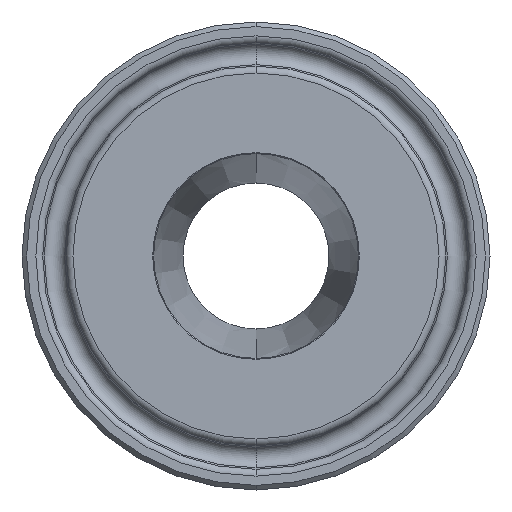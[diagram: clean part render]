
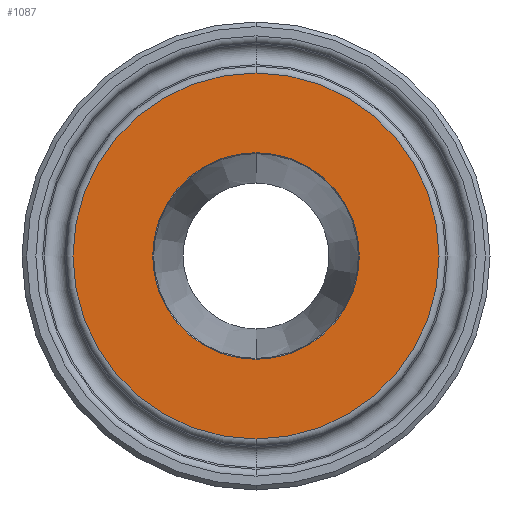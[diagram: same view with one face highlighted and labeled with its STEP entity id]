
A CAD part, left-side view. The second image highlights one B-rep face of the part: STEP entity #1087.
In plain terms, the highlighted planar face has unit normal (-1, 0, 0).
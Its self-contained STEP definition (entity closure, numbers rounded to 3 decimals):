
#21 = CARTESIAN_POINT ( 'NONE',  ( -39.688, 0., 11.15 ) ) ;
#56 = EDGE_CURVE ( 'NONE', #996, #718, #637, .T. ) ;
#112 = ORIENTED_EDGE ( 'NONE', *, *, #1278, .F. ) ;
#125 = CARTESIAN_POINT ( 'NONE',  ( -39.688, 0., -19.747 ) ) ;
#155 = EDGE_LOOP ( 'NONE', ( #382, #1337 ) ) ;
#294 = AXIS2_PLACEMENT_3D ( 'NONE', #606, #954, #1044 ) ;
#305 = CARTESIAN_POINT ( 'NONE',  ( -39.688, 0., 0. ) ) ;
#309 = DIRECTION ( 'NONE',  ( -1., 0., 0. ) ) ;
#314 = DIRECTION ( 'NONE',  ( 0., 0., 1. ) ) ;
#327 = CARTESIAN_POINT ( 'NONE',  ( -39.688, 0., 0. ) ) ;
#340 = DIRECTION ( 'NONE',  ( -1., 0., 0. ) ) ;
#345 = CARTESIAN_POINT ( 'NONE',  ( -39.688, 0., 0. ) ) ;
#348 = DIRECTION ( 'NONE',  ( 0., 0., 1. ) ) ;
#349 = CARTESIAN_POINT ( 'NONE',  ( -39.688, 0., -11.15 ) ) ;
#382 = ORIENTED_EDGE ( 'NONE', *, *, #565, .T. ) ;
#391 = DIRECTION ( 'NONE',  ( 0., 0., 1. ) ) ;
#394 = DIRECTION ( 'NONE',  ( -1., 0., 0. ) ) ;
#400 = CARTESIAN_POINT ( 'NONE',  ( -39.688, 0., 0. ) ) ;
#428 = FACE_BOUND ( 'NONE', #938, .T. ) ;
#511 = VERTEX_POINT ( 'NONE', #349 ) ;
#514 = AXIS2_PLACEMENT_3D ( 'NONE', #345, #783, #806 ) ;
#565 = EDGE_CURVE ( 'NONE', #718, #996, #886, .T. ) ;
#606 = CARTESIAN_POINT ( 'NONE',  ( -39.688, 0., 0. ) ) ;
#637 = CIRCLE ( 'NONE', #1431, 19.747 ) ;
#718 = VERTEX_POINT ( 'NONE', #980 ) ;
#725 = PLANE ( 'NONE',  #294 ) ;
#783 = DIRECTION ( 'NONE',  ( -1., 0., 0. ) ) ;
#785 = VERTEX_POINT ( 'NONE', #21 ) ;
#806 = DIRECTION ( 'NONE',  ( 0., 0., 1. ) ) ;
#876 = ORIENTED_EDGE ( 'NONE', *, *, #1213, .F. ) ;
#886 = CIRCLE ( 'NONE', #1135, 19.747 ) ;
#898 = CIRCLE ( 'NONE', #514, 11.15 ) ;
#938 = EDGE_LOOP ( 'NONE', ( #112, #876 ) ) ;
#954 = DIRECTION ( 'NONE',  ( 1., 0., 0. ) ) ;
#964 = AXIS2_PLACEMENT_3D ( 'NONE', #327, #340, #348 ) ;
#980 = CARTESIAN_POINT ( 'NONE',  ( -39.688, 0., 19.747 ) ) ;
#996 = VERTEX_POINT ( 'NONE', #125 ) ;
#1000 = FACE_OUTER_BOUND ( 'NONE', #155, .T. ) ;
#1044 = DIRECTION ( 'NONE',  ( 0., 0., -1. ) ) ;
#1087 = ADVANCED_FACE ( 'NONE', ( #1000, #428 ), #725, .F. ) ;
#1135 = AXIS2_PLACEMENT_3D ( 'NONE', #305, #309, #314 ) ;
#1213 = EDGE_CURVE ( 'NONE', #511, #785, #898, .T. ) ;
#1278 = EDGE_CURVE ( 'NONE', #785, #511, #1391, .T. ) ;
#1337 = ORIENTED_EDGE ( 'NONE', *, *, #56, .T. ) ;
#1391 = CIRCLE ( 'NONE', #964, 11.15 ) ;
#1431 = AXIS2_PLACEMENT_3D ( 'NONE', #400, #394, #391 ) ;
